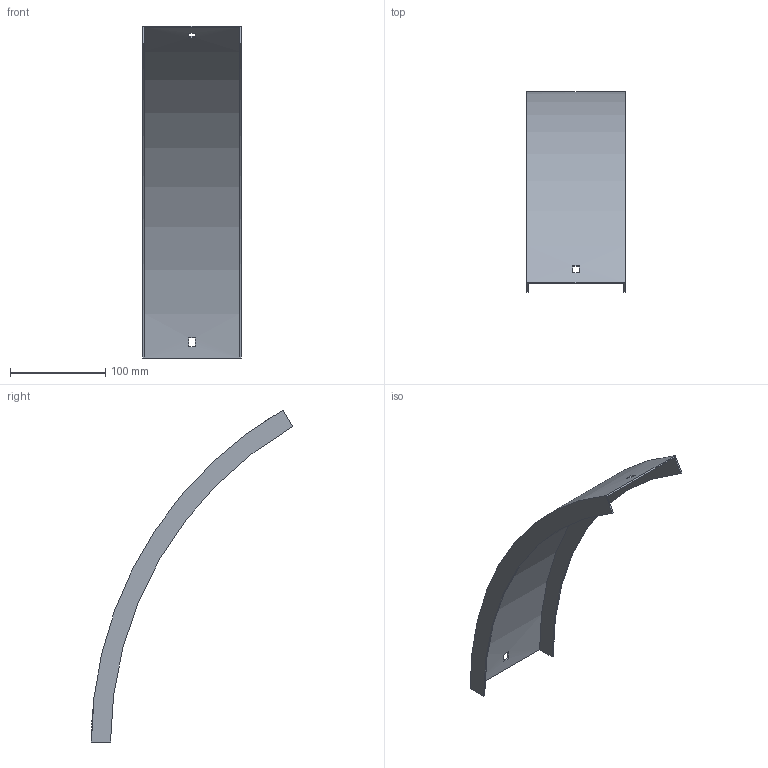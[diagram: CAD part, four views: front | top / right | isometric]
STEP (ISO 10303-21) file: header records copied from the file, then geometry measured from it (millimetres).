
FILE_DESCRIPTION (( 'STEP AP214' ), '1' );
FILE_NAME ('B2_41N3D100.step', '2025-02-21T10:41:31', ( '' ), ( '' ), 'SwSTEP 2.0', 'SolidWorks 2023', '' );
FILE_SCHEMA (( 'AUTOMOTIVE_DESIGN' ));
Length unit declared in the file: millimetre
Products named in the file (1): B2_41N3D100
Bounding box: 103 x 210.75 x 347.71 mm (x, y, z)
Volume: 87372.7 mm3; surface area: 118210.9 mm2
Topology: 1 solids, 1 shells, 18 faces, 48 edges, 32 vertices
Faces by surface type: plane 14, cylinder 4
Entity records: 599 total; most frequent: DIRECTION 102, CARTESIAN_POINT 99, ORIENTED_EDGE 96, EDGE_CURVE 48, AXIS2_PLACEMENT_3D 35, VECTOR 32, LINE 32, VERTEX_POINT 32
